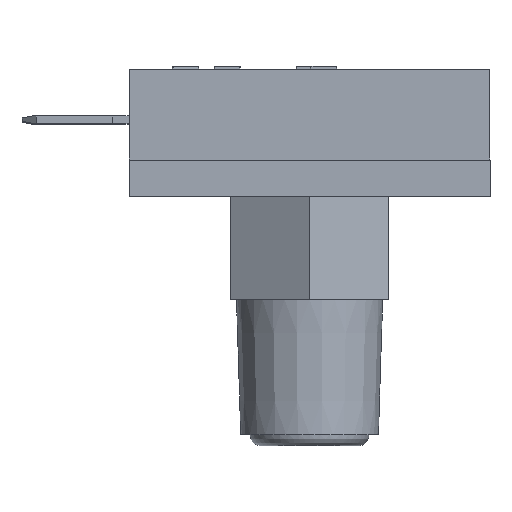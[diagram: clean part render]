
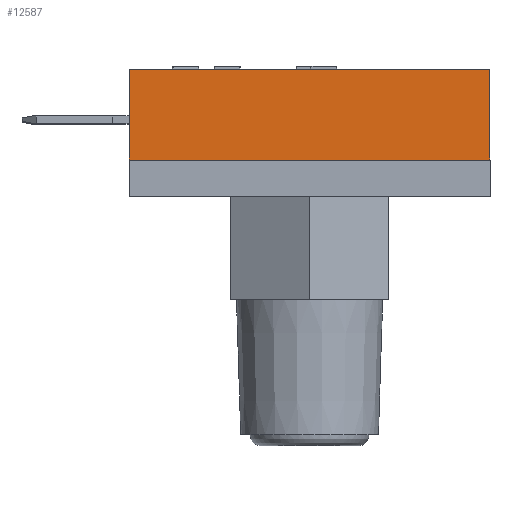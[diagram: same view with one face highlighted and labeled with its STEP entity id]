
A CAD part, left-side view. The second image highlights one B-rep face of the part: STEP entity #12587.
In plain terms, the highlighted planar face has unit normal (-1, 0, 0) as drawn and (1, 0, 0) by its records, which use the part's own axes.
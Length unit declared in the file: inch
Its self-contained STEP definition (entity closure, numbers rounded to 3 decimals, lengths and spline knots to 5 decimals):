
#1640=CARTESIAN_POINT('',(0.505,0.5,0.0));
#1641=VERTEX_POINT('',#1640);
#1656=CARTESIAN_POINT('',(0.505,-0.5,0.0));
#1657=VERTEX_POINT('',#1656);
#1664=CARTESIAN_POINT('',(0.505,0.5,0.0));
#1665=DIRECTION('',(0.0,-1.0,0.0));
#1666=VECTOR('',#1665,1.0);
#1667=LINE('',#1664,#1666);
#1668=EDGE_CURVE('',#1641,#1657,#1667,.T.);
#12545=CARTESIAN_POINT('',(0.505,-0.5,-0.252));
#12546=VERTEX_POINT('',#12545);
#12553=CARTESIAN_POINT('',(0.505,-0.5,0.0));
#12554=DIRECTION('',(0.0,0.0,-1.0));
#12555=VECTOR('',#12554,0.252);
#12556=LINE('',#12553,#12555);
#12557=EDGE_CURVE('',#1657,#12546,#12556,.T.);
#12564=CARTESIAN_POINT('',(0.505,-0.5,0.0));
#12565=DIRECTION('',(1.0,0.0,0.0));
#12566=DIRECTION('',(0.0,0.0,-1.0));
#12567=AXIS2_PLACEMENT_3D('',#12564,#12565,#12566);
#12568=PLANE('',#12567);
#12569=CARTESIAN_POINT('',(0.505,0.5,-0.252));
#12570=VERTEX_POINT('',#12569);
#12571=CARTESIAN_POINT('',(0.505,-0.5,-0.252));
#12572=DIRECTION('',(0.0,1.0,0.0));
#12573=VECTOR('',#12572,1.0);
#12574=LINE('',#12571,#12573);
#12575=EDGE_CURVE('',#12546,#12570,#12574,.T.);
#12576=ORIENTED_EDGE('',*,*,#12575,.T.);
#12577=CARTESIAN_POINT('',(0.505,0.5,0.0));
#12578=DIRECTION('',(0.0,0.0,-1.0));
#12579=VECTOR('',#12578,0.252);
#12580=LINE('',#12577,#12579);
#12581=EDGE_CURVE('',#1641,#12570,#12580,.T.);
#12582=ORIENTED_EDGE('',*,*,#12581,.F.);
#12583=ORIENTED_EDGE('',*,*,#1668,.T.);
#12584=ORIENTED_EDGE('',*,*,#12557,.T.);
#12585=EDGE_LOOP('',(#12576,#12582,#12583,#12584));
#12586=FACE_OUTER_BOUND('',#12585,.T.);
#12587=ADVANCED_FACE('',(#12586),#12568,.T.);
